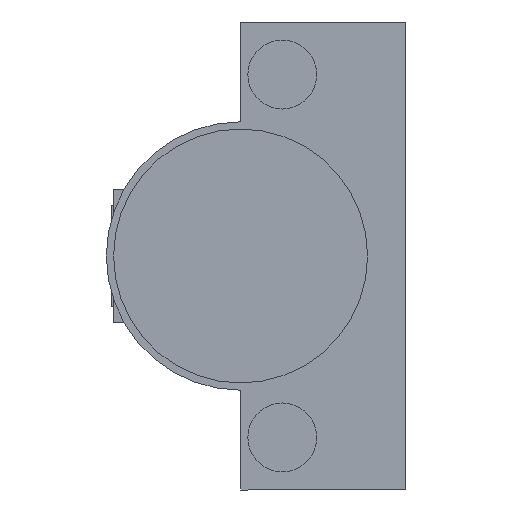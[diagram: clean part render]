
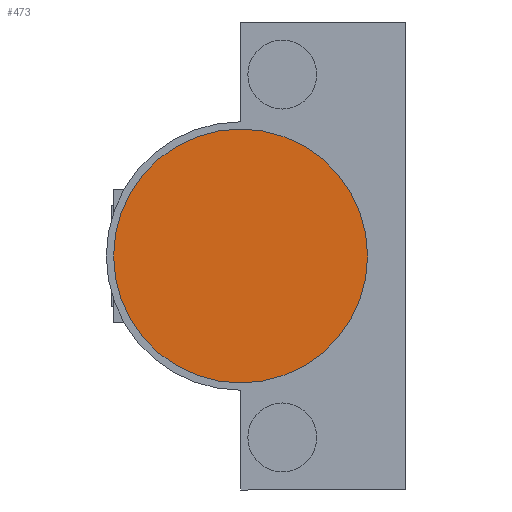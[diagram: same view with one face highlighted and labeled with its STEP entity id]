
A CAD part, front view. The second image highlights one B-rep face of the part: STEP entity #473.
In plain terms, the highlighted planar face has unit normal (0, -1, 0).
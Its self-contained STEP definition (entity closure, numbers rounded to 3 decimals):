
#91 = VERTEX_POINT ( 'NONE', #186 ) ;
#93 = VERTEX_POINT ( 'NONE', #188 ) ;
#186 = CARTESIAN_POINT ( 'NONE',  ( 39., -12.6, 0. ) ) ;
#188 = CARTESIAN_POINT ( 'NONE',  ( 4., -12.6, 0. ) ) ;
#243 = CARTESIAN_POINT ( 'NONE',  ( 21.5, -12.6, 0. ) ) ;
#244 = PLANE ( 'NONE',  #1654 ) ;
#246 = DIRECTION ( 'NONE',  ( 0., -1., 0. ) ) ;
#247 = DIRECTION ( 'NONE',  ( 1., 0., 0. ) ) ;
#473 = ADVANCED_FACE ( 'NONE', ( #543 ), #244, .T. ) ;
#543 = FACE_OUTER_BOUND ( 'NONE', #1530, .T. ) ;
#636 = CIRCLE ( 'NONE', #1648, 17.5 ) ;
#728 = CIRCLE ( 'NONE', #1695, 17.5 ) ;
#881 = CARTESIAN_POINT ( 'NONE',  ( 21.5, -12.6, 0. ) ) ;
#882 = DIRECTION ( 'NONE',  ( 0., -1., 0. ) ) ;
#883 = DIRECTION ( 'NONE',  ( 1., 0., 0. ) ) ;
#993 = CARTESIAN_POINT ( 'NONE',  ( 21.5, -12.6, 0. ) ) ;
#994 = DIRECTION ( 'NONE',  ( 0., -1., 0. ) ) ;
#995 = DIRECTION ( 'NONE',  ( 1., 0., 0. ) ) ;
#1335 = ORIENTED_EDGE ( 'NONE', *, *, #1576, .T. ) ;
#1336 = ORIENTED_EDGE ( 'NONE', *, *, #1627, .T. ) ;
#1530 = EDGE_LOOP ( 'NONE', ( #1335, #1336 ) ) ;
#1576 = EDGE_CURVE ( 'NONE', #93, #91, #636, .T. ) ;
#1627 = EDGE_CURVE ( 'NONE', #91, #93, #728, .T. ) ;
#1648 = AXIS2_PLACEMENT_3D ( 'NONE', #881, #882, #883 ) ;
#1654 = AXIS2_PLACEMENT_3D ( 'NONE', #243, #246, #247 ) ;
#1695 = AXIS2_PLACEMENT_3D ( 'NONE', #993, #994, #995 ) ;
